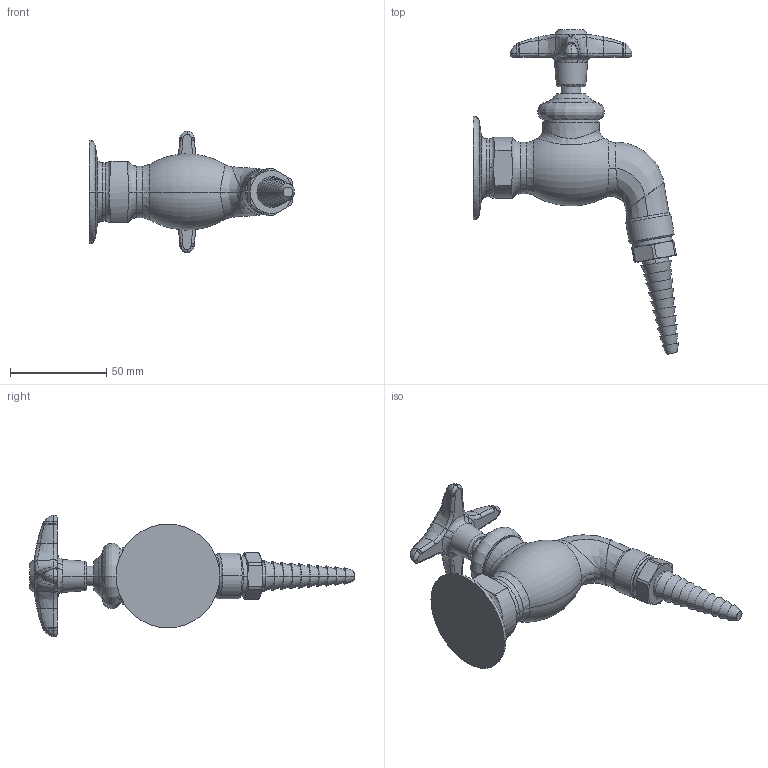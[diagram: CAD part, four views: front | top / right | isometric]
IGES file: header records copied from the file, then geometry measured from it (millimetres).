
Start section:  PTC IGES file: LWV3-A14.igs
Global section: file name: LWV3-A14.igs; native system: Creo Parametric by PTC Inc.; preprocessor: 2014500; author: usch_engrender; organization: Unknown; date: 20150910.120655; units: inch
Bounding box: 106.74 x 168.91 x 63.42 mm (x, y, z)
Volume: 129151.6 mm3; surface area: 25691.8 mm2
Topology: 1 solids, 3 shells, 281 faces, 618 edges, 361 vertices
Faces by surface type: bspline 183, revolution 98
